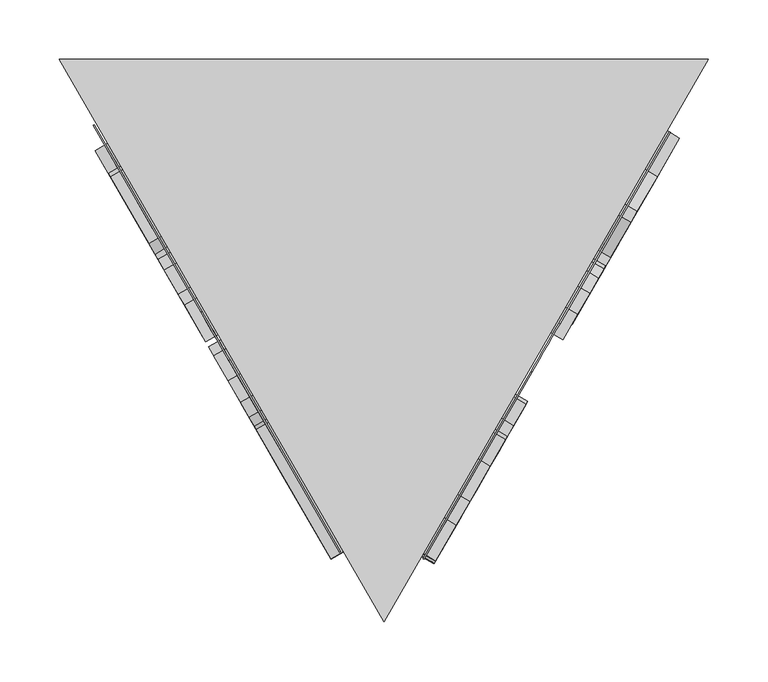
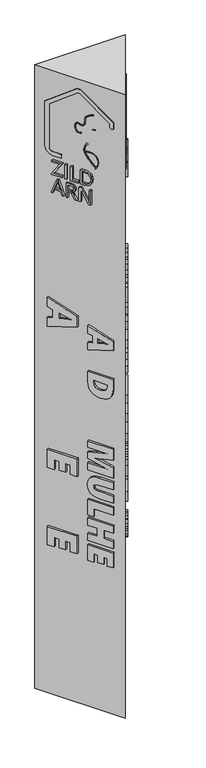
"""IFC4 building model written with IfcOpenShell, lengths in millimetres: proxy geometry, Modelos genéricos - (400)TOTEM - (400)TOTEM."""

from ifc_helpers import new_model, si_unit, point, frame, frame_2d, origin, place, context, project, spatial, polyline, circle_curve, trimmed, segment, composite_curve, outline, extrude, source, transform, mapped, element, save


def generic_models_2f17fe86(model_context):
    return source(origin(), model_context, "Body", "SweptSolid", [
        extrude(outline(polyline([(-76.4528073, 25.9651043), (-76.4528073, 72.1252898), (76.4528073, 72.1252898), (76.4528073, 25.9651043), (18.7525754, 25.9651043), (18.7525754, -25.9651044), (76.4528073, -25.9651044), (76.4528073, -72.1252899), (-76.4528073, -72.1252899), (-76.4528073, -25.9651044), (-18.7525753, -25.9651044), (-18.7525753, 25.9651043), (-76.4528073, 25.9651043)])), frame((-300.8964733, 119.7433033, 1180.3257829), z_axis=(0.8660254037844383, 0.5000000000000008, 0.0), x_axis=(0.5000000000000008, -0.8660254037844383, 0.0)), (0.0, 0.0, 1.0), 12.0),
        extrude(outline(polyline([(-36.8087686, 64.2163787), (61.2816257, 64.2163787), (61.2816257, 29.5962396), (9.3514169, 29.5962396), (9.3514169, -88.6892358), (-36.8087686, -88.6892358), (-36.8087686, 64.2163787)])), frame((-129.5977894, 128.9547206, 2405.7593289), z_axis=(-0.8660254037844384, 0.5000000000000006, 0.0), x_axis=(0.0, 0.0, 1.0)), (0.0, 0.0, 1.0), 12.0),
        extrude(outline(polyline([(-4.63153, 13.5526436), (2.0984457, 13.5526436), (4.1446937, 8.4686354), (4.8220926, 3.6724691), (4.4594532, -0.7632692), (3.3855861, -4.7659937), (1.9293024, -8.2631188), (0.4194125, -11.1820584), (-0.8555192, -13.4606666), (-1.8373573, -15.0965671), (-2.5498317, -16.1086195), (-3.3093526, -15.5905343), (-3.1826523, -14.2960408), (-2.907899, -12.4760562), (-2.539639, -10.2051367), (-2.1525433, -7.5943115), (-1.8217046, -4.7553732), (-1.6222151, -1.8001145), (-1.6273502, 1.1606202), (-1.863613, 4.0403948), (-2.3077866, 6.7787186), (-2.9342467, 9.3163574), (-3.7173691, 11.5940771), (-4.63153, 13.5526436)])), frame((-36.7823721, 307.715739, 3754.9053965), z_axis=(-0.8660254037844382, 0.5000000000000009, 0.0), x_axis=(-0.23954797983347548, -0.41490927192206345, 0.8777625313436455)), (0.0, 0.0, 1.0), 1.0),
        extrude(outline(polyline([(44.875535, -42.3616383), (-45.9594836, -42.3616383), (-45.9594836, -18.6620536), (-42.7694124, 1.1311165), (-33.1991987, 16.4856356), (-18.3668739, 26.3370308), (0.6095309, 29.6208291), (19.9759077, 26.6650759), (33.8090339, 17.7978161), (42.1089097, 3.0190496), (44.875535, -17.6712235), (44.875535, -42.3616383)]), holes=[polyline([(-35.676274, -32.0784287), (34.5923253, -32.0784287), (34.5923253, -17.8586778), (32.4516637, -1.5852977), (26.0296787, 10.0385451), (15.3263705, 17.012851), (0.341739, 19.3376195), (-14.9391373, 16.8471547), (-26.2901672, 9.3757602), (-33.3297473, -2.5744541), (-35.676274, -18.5013785), (-35.676274, -32.0784287)])]), frame((-340.6795695, 188.649647, 3426.4777613), z_axis=(0.8660254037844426, 0.4999999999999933, 0.0), x_axis=(0.0, 0.0, 1.0)), (0.0, 0.0, 1.0), 12.0),
        extrude(outline(polyline([(-30.9502888, 45.7337275), (-7.2507042, 45.7337275), (12.542466, 42.5436563), (27.8969851, 32.9734426), (37.7483803, 18.1411177), (41.0321787, -0.835287), (38.0764254, -20.2016638), (29.2091655, -34.0347901), (14.4303991, -42.3346658), (-6.259874, -45.1012911), (-30.9502888, -45.1012911), (-30.9502888, 45.7337275)]), holes=[polyline([(-20.6670792, -34.8180814), (-6.4473283, -34.8180814), (9.8260517, -32.6774198), (21.4498947, -26.2554348), (28.4242005, -15.5521266), (30.748969, -0.5674951), (28.2585042, 14.7133812), (20.7871097, 26.0644111), (8.8368954, 33.1039912), (-7.090029, 35.4505178), (-20.6670792, 35.4505178), (-20.6670792, -34.8180814)])]), frame((-50.6006345, 265.7818065, 3425.4248276), z_axis=(-0.8660254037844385, 0.5000000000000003, 0.0), x_axis=(0.5000000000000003, 0.8660254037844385, 0.0)), (0.0, 0.0, 1.0), 12.0),
        extrude(outline(polyline([(-60.2017262, 21.1635115), (-73.1143141, 77.7666363), (116.8108071, 62.0389046), (131.5697521, -2.6578405), (-31.9465063, -102.6949867), (-44.8114462, -46.3007296), (-13.2628082, -30.4790073), (-25.0437578, 21.1635115), (-60.2017262, 21.1635115)]), holes=[polyline([(87.6023023, 20.547352), (66.282956, 19.364476), (13.8372759, 20.2549373), (21.460944, -13.1638817), (78.1915107, 15.3241929), (87.6023023, 20.547352)])]), frame((-435.2164361, 352.3923032, 2488.0813655), z_axis=(0.8660254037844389, 0.4999999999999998, 0.0), x_axis=(0.4874764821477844, -0.844334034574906, 0.22241114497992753)), (0.0, 0.0, 1.0), 12.0),
        extrude(outline(polyline([(90.2637291, -74.7139451), (-91.406308, -74.7139451), (-91.406308, 41.8290976), (-50.2734695, 41.8290976), (-50.2734695, -19.8701603), (-19.4238405, -19.8701603), (-19.4238405, 34.9736245), (21.7089981, 34.9736245), (21.7089981, -19.8701603), (49.1308905, -19.8701603), (49.1308905, 37.6515437), (90.2637291, 37.6515437), (90.2637291, -74.7139451)])), frame((-416.5067074, 319.9861025, 1532.9077632), z_axis=(0.8660254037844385, 0.5000000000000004, 0.0), x_axis=(0.5000000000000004, -0.8660254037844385, 0.0)), (0.0, 0.0, 1.0), 12.0),
        extrude(outline(polyline([(39.9791565, 91.3983502), (87.6461178, 91.3983502), (87.6461178, -90.2716869), (35.4802522, -90.2716869), (35.4802522, -9.8805531), (35.7480442, 9.132673), (33.5521504, 5.1157943), (30.4725434, 0.5097733), (27.2322612, -4.0962478), (24.5007836, -8.0060097), (-36.180865, -90.2716869), (-87.1684462, -90.2716869), (-87.1684462, 91.3983502), (-35.7523979, 91.3983502), (-35.7523979, 15.2383288), (-36.0201898, -14.8614828), (-23.6482032, 3.8839514), (39.9791565, 91.3983502)])), frame((-13.2017907, 330.5585041, 1818.1886702), z_axis=(-0.8660254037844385, 0.5000000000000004, 0.0), x_axis=(0.0, 0.0, 1.0)), (0.0, 0.0, 1.0), 12.0),
        extrude(outline(polyline([(18.852551, -33.7060761), (-27.4218924, -33.7060761), (-27.4218924, -23.4228665), (8.5693414, -23.4228665), (8.5693414, 57.1289425), (18.852551, 57.1289425), (18.852551, -33.7060761)])), frame((-382.4268079, 260.9579851, 3414.2243538), z_axis=(0.8660254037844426, 0.4999999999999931, 0.0), x_axis=(-0.4999999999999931, 0.8660254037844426, 0.0)), (0.0, 0.0, 1.0), 12.0),
        extrude(outline(composite_curve([segment(polyline([(38.8327591, -51.736189), (29.1486857, -51.736189)]), True, "CONTINUOUS"), segment(trimmed(circle_curve(frame_2d((31.1091994, -49.4559354)), 3.0071864), [point((29.1486857, -51.736189))], [point((30.7203024, -46.4740015))], False, "CARTESIAN"), True, "CONTINUOUS"), segment(polyline([(30.7203024, -46.4740015), (37.0919875, -46.5237561), (42.0909295, -44.503104), (45.4488844, -41.8372725), (48.2458241, -37.8717707), (49.7527185, -33.3636464), (49.748345, -28.2383806), (48.5416446, -22.2375904), (46.7232765, -15.9045684), (44.6210515, -10.0057441), (42.0281474, -4.6078953), (38.7973108, 0.2062461), (35.1204343, 3.9574287), (31.2733451, 6.2658393), (27.2867947, 7.2687926), (23.5184579, 7.0347859), (19.9230449, 5.3807463), (15.7845913, 1.3859684), (12.2632867, -3.6808764), (9.4806368, -8.5689507), (2.823159, -12.8157393), (-4.505966, -13.0706988), (-11.3485306, -10.9439389), (-17.7839801, -7.2392151), (-23.9281626, -2.1429036), (-29.4945056, 4.1538269), (-34.2529579, 10.9270829), (-38.2286068, 17.4345471), (-41.4571038, 22.8184327), (-44.068977, 26.3489093), (-46.3704066, 28.3270741), (-49.1488574, 29.6773389), (-54.4658314, 31.3799619), (-63.1973948, 33.7042269), (-76.8785678, 35.3495899), (-97.9705555, 34.4544595), (-103.3195109, 33.8572098), (-101.6121688, 39.5738418), (-98.5799751, 39.9124082), (-76.1242172, 40.81311), (-61.3958462, 38.9341771), (-52.2695323, 36.4536261), (-46.7050174, 34.6208092), (-42.8602075, 32.5798425), (-39.451983, 29.4136982), (-36.1670602, 24.7185023), (-32.6447899, 18.7776028), (-28.5097122, 12.1913825), (-23.7186422, 5.7275767), (-18.3620214, 0.1877215), (-12.6732306, -4.0233046), (-6.9845306, -6.7876691), (-1.4815442, -7.8255989), (3.3876961, -6.7640519), (6.1537385, -3.5065991), (9.275641, 1.8740586), (14.2743042, 7.826164), (19.8133001, 11.5728069), (25.4969754, 12.8087585), (31.2717796, 12.076493), (36.7997754, 9.5231574), (41.7015326, 5.2600569), (45.8029829, -0.2113012), (49.011316, -6.300722), (51.4729348, -12.7416237), (53.4896836, -19.4788881), (55.0392658, -26.4001688), (55.3025508, -33.2446797), (53.4675899, -39.6995306), (49.8239175, -45.1910177), (45.1097947, -49.1006775), (38.8327591, -51.736189)]), True, "CONTINUOUS")], self_intersect=False)), frame((-353.4375862, 228.7471803, 3761.0048527), z_axis=(0.8660254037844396, 0.4999999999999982, 0.0), x_axis=(-0.43994417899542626, 0.7620056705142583, -0.47518046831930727)), (0.0, 0.0, 1.0), 1.0),
        extrude(outline(polyline([(12.5579119, -64.4016365), (-19.8025084, -64.4016365), (-102.2917648, -53.7863582), (-96.4001415, -8.0037032), (-8.9034072, -19.2633778), (4.2095935, -19.6555219), (14.0402437, -17.0346195), (20.4973563, -11.4911981), (23.4897437, -3.1157858), (22.5866402, 5.7154746), (17.3802944, 12.8052792), (8.1509203, 17.9471302), (-4.8212678, 20.9345304), (-91.2449712, 32.05612), (-85.3533479, 77.838775), (-2.0146086, 67.1141796), (28.6514868, 58.980774), (49.2932133, 43.7632048), (59.9912398, 21.7351533), (60.8262358, -6.8296988), (52.5734905, -35.9067295), (36.5836471, -55.0003548), (12.5579119, -64.4016365)])), frame((-309.9651528, 135.4507169, 1465.9890582), z_axis=(0.8660254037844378, 0.5000000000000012, 0.0), x_axis=(-0.49591064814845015, 0.8589424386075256, 0.12763430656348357)), (0.0, 0.0, 1.0), 12.0),
        extrude(outline(polyline([(-54.380731, -4.1798604), (-56.6193783, -2.6620159), (-20.0708867, 51.242837), (-11.5595941, 45.4720225), (-39.0160473, 4.9768883), (54.3981884, 4.8927581), (57.0358025, 3.1044067), (19.5255085, -52.2189949), (11.0142159, -46.4481805), (39.6729221, -4.1798604), (-54.380731, -4.1798604)])), frame((-433.6928927, 349.7534486, 3425.9839895), z_axis=(0.8660254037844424, 0.49999999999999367, 0.0), x_axis=(-0.2805940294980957, 0.4860031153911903, -0.8276883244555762)), (0.0, 0.0, 1.0), 12.0),
        extrude(outline(polyline([(75.971972, -62.8842371), (-76.9336426, -62.8842371), (-76.9336426, 35.2061572), (-42.3135034, 35.2061572), (-42.3135034, -16.7240516), (-16.348399, -16.7240516), (-16.348399, 29.436134), (18.2717401, 29.436134), (18.2717401, -16.7240516), (41.3518328, -16.7240516), (41.3518328, 31.6900493), (75.971972, 31.6900493), (75.971972, -62.8842371)])), frame((-300.6560557, 119.3268877, 1016.46614), z_axis=(0.8660254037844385, 0.5000000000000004, 0.0), x_axis=(0.5000000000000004, -0.8660254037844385, 0.0)), (0.0, 0.0, 1.0), 12.0),
        extrude(outline(polyline([(90.2637291, -74.7139451), (-91.406308, -74.7139451), (-91.406308, 41.8290975), (-50.2734695, 41.8290975), (-50.2734695, -19.8701603), (-19.4238405, -19.8701603), (-19.4238405, 34.9736244), (21.7089981, 34.9736244), (21.7089981, -19.8701603), (49.1308905, -19.8701603), (49.1308905, 37.6515436), (90.2637291, 37.6515436), (90.2637291, -74.7139451)])), frame((-416.5067074, 319.9861025, 1035.8859635), z_axis=(0.8660254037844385, 0.5000000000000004, 0.0), x_axis=(0.5000000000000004, -0.8660254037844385, 0.0)), (0.0, 0.0, 1.0), 12.0),
        extrude(outline(polyline([(-11.2325872, -1.823796), (-12.1134304, -1.823796), (-9.7317169, 2.0747206), (-5.1512732, 2.0119895), (-1.3167217, 1.9177929), (1.8181601, 1.7952394), (4.2995944, 1.6474373), (6.1738034, 1.4774952), (7.4870095, 1.2885213), (8.2854348, 1.0836243), (8.6153015, 0.8659125), (8.522832, 0.6384945), (8.0542486, 0.4044784), (7.2557734, 0.166973), (6.1736286, -0.0709134), (4.8540367, -0.3060725), (3.3432196, -0.5353955), (1.6873999, -0.7557743), (-0.0672004, -0.9641004), (-1.8743589, -1.1572652), (-3.6878534, -1.3321604), (-5.4614617, -1.4856775), (-7.1489615, -1.614708), (-8.7041304, -1.7161435), (-10.0807464, -1.7868758), (-11.2325872, -1.823796)])), frame((-316.0235706, 163.9442044, 3747.826212), z_axis=(0.8660254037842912, 0.5000000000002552, 0.0), x_axis=(-0.48624597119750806, 0.8422027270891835, -0.23293651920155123)), (0.0, 0.0, 1.0), 1.0),
        extrude(outline(polyline([(-23.2845072, -45.6738244), (-35.951065, -45.6738244), (-35.951065, 45.1611942), (-25.6678553, 45.1611942), (-25.6678553, -18.814295), (-26.0427641, -32.1771117), (-22.400794, -26.0982352), (22.5882483, 45.1611942), (36.0314025, 45.1611942), (36.0314025, -45.6738244), (25.7481929, -45.6738244), (25.7481929, 19.9619747), (25.8553097, 32.441078), (22.9631569, 26.7371102), (-23.2845072, -45.6738244)])), frame((-348.129358, 201.5530594, 3311.1921021), z_axis=(0.866025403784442, 0.4999999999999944, 0.0), x_axis=(-0.4999999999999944, 0.866025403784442, 0.0)), (0.0, 0.0, 1.0), 12.0),
        extrude(outline(polyline([(-408.9917662, 306.9698425), (-398.5994613, 312.9698425), (-393.4578565, 304.0643217), (-403.8501613, 298.0643217), (-408.9917662, 306.9698425)])), frame((0.0, 0.0, 3380.5182777), z_axis=(0.0, 0.0, 1.0), x_axis=(1.0, 0.0, 0.0)), (0.0, 0.0, 1.0), 90.8350186),
        extrude(outline(polyline([(34.0018753, 78.4235284), (92.0591631, 78.4235284), (34.4839007, -103.2465087), (-31.8749365, -103.2465087), (-93.0386106, 78.4235284), (-35.1955563, 78.4235284), (-26.7868901, 44.146163), (26.1823513, 44.146163), (34.0018753, 78.4235284)]), holes=[polyline([(0.5278855, -65.5414066), (4.1162972, -44.4929618), (16.648959, 6.4410609), (-17.6284065, 6.4410609), (-2.4713839, -55.2046386), (0.5278855, -65.5414066)])]), frame((-6.7143798, 341.7950293, 1251.6268309), z_axis=(-0.8660254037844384, 0.5000000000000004, 0.0), x_axis=(0.0, 0.0, 1.0)), (0.0, 0.0, 1.0), 12.0),
        extrude(outline(polyline([(-12.3491137, 66.3481512), (70.8203612, 66.3481512), (70.8203612, 20.1879657), (-17.397884, 20.1879657), (-30.4536884, 18.903234), (-39.8694197, 15.0490388), (-45.5661906, 8.7268064), (-47.4651142, 0.0379629), (-45.4422253, -8.6058024), (-39.3735583, -14.9731131), (-29.5633919, -18.8949257), (-16.3160046, -20.2021966), (70.8203612, -20.2021966), (70.8203612, -66.3623821), (-13.2056015, -66.3623821), (-44.6589897, -62.2095432), (-67.0741774, -49.7510263), (-80.496243, -29.2685709), (-84.970265, -1.0439165), (-80.496243, 28.8486353), (-67.0741774, 49.826952), (-44.4448677, 62.2178514), (-12.3491137, 66.3481512)])), frame((-138.5322267, 113.4798212, 2273.7522931), z_axis=(-0.8660254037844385, 0.5000000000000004, 0.0), x_axis=(-0.5000000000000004, -0.8660254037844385, 0.0)), (0.0, 0.0, 1.0), 12.0),
        extrude(outline(polyline([(-492.9062385, 476.3139721), (57.0937615, 476.3139721), (-217.9062385, 0.0), (-492.9062385, 476.3139721)])), frame((0.0, 0.0, 37.8534751), z_axis=(0.0, 0.0, 1.0), x_axis=(1.0, 0.0, 0.0)), (0.0, 0.0, 1.0), 4000.0),
        extrude(outline(polyline([(-51.6514887, 22.8310198), (45.3791723, 22.8310199), (49.1548919, 12.7782403), (-23.9314919, -50.9729277), (-27.9896844, -40.1680698), (-8.4464989, -23.9600736), (-22.042856, 12.2399604), (-47.6121277, 12.0763006), (-51.6514887, 22.8310198)]), holes=[polyline([(-11.1262951, 12.4211214), (-0.1004404, -16.9350004), (32.4818133, 10.4063853), (37.6639696, 14.1263051), (31.4178325, 13.2392134), (-11.1262951, 12.4211214)])]), frame((-6.1480268, 342.7759815, 3420.0169627), z_axis=(-0.8660254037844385, 0.5000000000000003, 0.0), x_axis=(-0.17580365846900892, -0.3045008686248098, 0.9361475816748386)), (0.0, 0.0, 1.0), 12.0),
        extrude(outline(polyline([(-28.0009924, -28.7072936), (-39.4892657, -28.7072936), (-5.3725754, 62.127725), (5.3658806, 62.127725), (39.348675, -28.7072936), (27.8068433, -28.7072936), (19.5052938, -4.7131378), (-19.1638591, -4.7131378), (-28.0009924, -28.7072936)]), holes=[polyline([(-1.3021382, 45.6853012), (-15.4951099, 5.5700719), (15.8633237, 5.5700719), (1.7239104, 45.6853012), (0.0636006, 51.8445153), (-1.3021382, 45.6853012)])]), frame((-431.3072014, 345.6213102, 3294.2255713), z_axis=(0.8660254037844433, 0.49999999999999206, 0.0), x_axis=(-0.49999999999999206, 0.8660254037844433, 0.0)), (0.0, 0.0, 1.0), 12.0),
        extrude(outline(polyline([(39.9791564, 91.3983502), (87.6461178, 91.3983502), (87.6461178, -90.2716869), (35.4802522, -90.2716869), (35.4802522, -9.8805531), (35.7480441, 9.132673), (33.5521504, 5.1157943), (30.4725433, 0.5097733), (27.2322611, -4.0962478), (24.5007836, -8.0060097), (-36.180865, -90.2716869), (-87.1684462, -90.2716869), (-87.1684462, 91.3983502), (-35.752398, 91.3983502), (-35.752398, 15.2383288), (-36.0201899, -14.8614828), (-23.6482033, 3.8839514), (39.9791564, 91.3983502)])), frame((-13.2017907, 330.5585041, 2359.771045), z_axis=(-0.8660254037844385, 0.5000000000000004, 0.0), x_axis=(0.0, 0.0, 1.0)), (0.0, 0.0, 1.0), 12.0),
        extrude(outline(polyline([(25.9651044, 76.4528073), (72.1252899, 76.4528073), (72.1252899, -76.4528073), (25.9651044, -76.4528073), (25.9651044, -18.7525753), (-25.9651043, -18.7525753), (-25.9651043, -76.4528073), (-72.1252899, -76.4528073), (-72.1252899, 76.4528073), (-25.9651043, 76.4528073), (-25.9651043, 18.7525754), (25.9651044, 18.7525754), (25.9651044, 76.4528073)])), frame((-135.7160037, 118.3576626, 2559.3613256), z_axis=(-0.8660254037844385, 0.5000000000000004, 0.0), x_axis=(0.0, 0.0, 1.0)), (0.0, 0.0, 1.0), 12.0),
        extrude(outline(polyline([(90.39703, -48.0835265), (-62.5085846, -48.0835265), (-62.5085846, 50.0068677), (-27.8884454, 50.0068677), (-27.8884454, -1.923341), (90.39703, -1.923341), (90.39703, -48.0835265)])), frame((-307.8685847, 131.8193544, 1322.6530217), z_axis=(0.8660254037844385, 0.5000000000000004, 0.0), x_axis=(0.5000000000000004, -0.8660254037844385, 0.0)), (0.0, 0.0, 1.0), 12.0),
        extrude(outline(polyline([(23.2341063, 86.4951596), (85.8974151, 86.4951596), (67.7946815, 40.2742746), (53.9230601, 16.5479106), (34.4813669, 4.5508328), (52.4100358, -2.913867), (65.2774375, -13.846472), (73.0300135, -28.0327489), (75.6142055, -45.2584639), (71.0617429, -67.0968949), (57.4043551, -82.6957742), (34.2001854, -92.0551017), (1.0073772, -95.1748775), (-71.7784661, -95.1748775), (-71.7784661, 86.4951596), (-16.9346813, 86.4951596), (-16.9346813, 21.3681652), (-14.7387876, 21.3681652), (-7.5619642, 23.0485594), (-0.9207246, 28.0897423), (9.4696018, 46.5406055), (23.2341063, 86.4951596)]), holes=[polyline([(17.3426842, -37.9209654), (15.6689847, -29.3984876), (10.6478862, -22.4693718), (2.868531, -17.8700456), (-7.0799388, -16.3369368), (-16.9346813, -16.3369368), (-16.9346813, -57.4697754), (-5.6874208, -57.4697754), (4.6225681, -56.1509003), (11.7726123, -52.1942747), (15.9501662, -45.9881969), (17.3426842, -37.9209654)])]), frame((-10.7501954, 334.8047917, 1436.0308794), z_axis=(-0.8660254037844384, 0.5000000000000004, 0.0), x_axis=(0.0, 0.0, 1.0)), (0.0, 0.0, 1.0), 12.0),
        extrude(outline(polyline([(-10.7568186, 80.0782553), (22.2327466, 80.0782553), (35.8567016, 75.7970587), (47.5667714, 68.6617312), (57.3629561, 58.6722727), (65.2452558, 45.8286831), (75.2681997, 11.579111), (84.9788064, -51.052678), (-66.1214985, -74.4796893), (-76.0462081, -10.4669717), (-77.0607127, 11.9275871), (-72.8523512, 32.337879), (-63.7012601, 49.9963027), (-49.8875763, 64.135257), (-32.0323968, 74.3106162), (-10.7568186, 80.0782553)]), holes=[polyline([(-3.6434089, 31.5499608), (-20.8729771, 26.3868181), (-33.3611306, 16.975152), (-40.3189927, 4.2583765), (-40.9576867, -10.8200949), (-38.9824139, -23.560274), (43.6951113, -10.7417207), (41.8855957, 0.9293524), (33.8456403, 19.685822), (17.6755344, 30.2708116), (-3.6434089, 31.5499608)])]), frame((-135.865611, 118.0985351, 1610.1919633), z_axis=(-0.866025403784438, 0.5000000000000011, 0.0), x_axis=(-0.49409665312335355, -0.8558005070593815, -0.1532122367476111)), (0.0, 0.0, 1.0), 12.0),
        extrude(outline(polyline([(16.6411767, -45.7654861), (-5.4023231, -45.765486), (-37.2426425, -37.1338302), (-49.2718177, -29.4370949), (-58.7070034, -19.4864212), (-65.5481994, -7.2818092), (-69.7954058, 7.1767411), (-70.5078497, 42.8556567), (-63.4926852, 105.8463255), (88.4734232, 88.9221164), (81.3035858, 24.5426064), (76.4232556, 2.6627559), (67.021186, -15.9354003), (53.5685958, -30.5842984), (36.5367045, -40.6163752), (16.6411767, -45.7654861)]), holes=[polyline([(-19.8121672, 9.7461032), (0.4294087, 2.933455), (18.4096827, 3.4086481), (32.9253349, 9.2249421), (42.9681281, 19.6781967), (47.529825, 34.0642716), (48.9568072, 46.8774517), (-34.1944596, 56.137868), (-35.5016951, 44.3999198), (-32.6494187, 24.193224), (-19.8121672, 9.7461032)])]), frame((-300.0791003, 118.3275717, 2094.7965108), z_axis=(0.8660254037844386, 0.5000000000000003, 0.0), x_axis=(-0.4969278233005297, 0.8607042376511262, 0.11068402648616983)), (0.0, 0.0, 1.0), 12.0),
        extrude(outline(polyline([(-37.9671014, 50.7529622), (-23.1545463, 50.7529623), (-9.6883502, 45.7402389), (3.1870733, 34.8552881), (16.2273113, 17.2386057), (26.7124121, 3.5237091), (35.1685534, 1.2163079), (42.2501055, 6.8376162), (43.2326898, 18.8238589), (37.5452757, 35.9067434), (26.1151449, 52.3569927), (65.7194665, 58.7669407), (71.7932266, 44.6577242), (75.3044223, 33.2618038), (78.2219518, 19.326726), (78.8806306, -5.5510809), (72.0844008, -25.98443), (58.7071069, -40.5304399), (39.6225928, -47.7462292), (24.6715562, -47.8428479), (11.14591, -43.0623629), (-0.954346, -33.4047743), (-11.6292115, -18.8700822), (-20.7221034, -4.5873701), (-26.9518681, 0.7517667), (-33.7800576, 1.7472121), (-40.9823749, -3.5511553), (-41.8344196, -15.3564429), (-34.5190535, -35.7262905), (-20.8678191, -54.6140306), (-61.451124, -61.1824268), (-70.5642078, -42.1195835), (-76.0746539, -20.4872308), (-77.6682025, -1.9654519), (-76.067709, 14.1735599), (-71.1923415, 27.7830602), (-62.9612687, 38.7163043), (-51.7582641, 46.5230267), (-37.9671014, 50.7529622)])), frame((-135.2324288, 119.1952389, 1187.6290126), z_axis=(-0.8660254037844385, 0.5000000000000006, 0.0), x_axis=(-0.49357708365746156, -0.8549005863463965, -0.15977061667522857)), (0.0, 0.0, 1.0), 12.0),
        extrude(outline(polyline([(-50.6697863, 17.8126222), (-61.5378811, 65.4535856), (98.3157626, 52.2160781), (110.7378747, -2.2370157), (-26.8883095, -86.4349471), (-37.7163006, -38.9697806), (-11.1628636, -25.6531645), (-21.0784962, 17.8126222), (-50.6697863, 17.8126222)]), holes=[polyline([(73.7319378, 17.2940214), (55.7881547, 16.298434), (11.6463738, 17.0479056), (18.0629612, -11.0796004), (65.8111881, 12.8978624), (73.7319378, 17.2940214)])]), frame((-316.4034107, 146.6021066, 2408.9462875), z_axis=(0.8660254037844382, 0.5000000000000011, 0.0), x_axis=(0.4874764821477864, -0.8443340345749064, 0.22241114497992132)), (0.0, 0.0, 1.0), 12.0),
        extrude(outline(composite_curve([segment(polyline([(-145.5361133, -90.9011543), (27.4729072, -221.2728024)]), True, "CONTINUOUS"), segment(trimmed(circle_curve(frame_2d((36.6537063, -209.0894706)), 15.2551842), [point((27.4729072, -221.2728024))], [point((45.6204785, -221.4311739))], True, "CARTESIAN"), True, "CONTINUOUS"), segment(polyline([(45.6204785, -221.4311739), (223.065465, -92.5098449), (223.065465, -74.2036238)]), True, "CONTINUOUS"), segment(trimmed(circle_curve(frame_2d((235.2696123, -74.2036238)), 12.2041473), [point((223.065465, -74.2036238))], [point((247.4737596, -74.2036238))], False, "CARTESIAN"), True, "CONTINUOUS"), segment(polyline([(247.4737596, -74.2036238), (247.4737596, -104.9464922), (59.9673142, -241.1778991)]), True, "CONTINUOUS"), segment(trimmed(circle_curve(frame_2d((36.6537063, -209.0894706)), 39.6634788), [point((59.9673142, -241.1778991))], [point((12.7836288, -240.7661333))], False, "CARTESIAN"), True, "CONTINUOUS"), segment(polyline([(12.7836288, -240.7661333), (-169.9444079, -103.0706811), (-169.9444079, 183.4960366)]), True, "CONTINUOUS"), segment(trimmed(circle_curve(frame_2d((-121.1278186, 183.4960366)), 48.8165894), [point((-169.9444079, 183.4960366))], [point((-121.1278186, 232.312626))], False, "CARTESIAN"), True, "CONTINUOUS"), segment(polyline([(-121.1278186, 232.312626), (-72.3112292, 232.312626), (-72.3112292, 217.0574418), (-69.0836403, 207.9043313), (-121.1278186, 207.9043313)]), True, "CONTINUOUS"), segment(trimmed(circle_curve(frame_2d((-121.1278186, 183.4960366)), 24.4082947), [point((-121.1278186, 207.9043313))], [point((-145.5361133, 183.4960366))], True, "CARTESIAN"), True, "CONTINUOUS"), segment(polyline([(-145.5361133, 183.4960366), (-145.5361133, -90.9011543)]), True, "CONTINUOUS")], self_intersect=False)), frame((-98.875888, 200.1666147, 3728.6060913), z_axis=(-0.8660254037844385, 0.5000000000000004, 0.0), x_axis=(0.5000000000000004, 0.8660254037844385, 0.0)), (0.0, 0.0, 1.0), 1.0),
        extrude(outline(polyline([(34.0018752, 78.4235284), (92.059163, 78.4235284), (34.4839007, -103.2465087), (-31.8749366, -103.2465087), (-93.0386106, 78.4235284), (-35.1955563, 78.4235284), (-26.7868901, 44.146163), (26.1823512, 44.146163), (34.0018752, 78.4235284)]), holes=[polyline([(0.5278855, -65.5414066), (4.1162972, -44.4929618), (16.648959, 6.4410609), (-17.6284065, 6.4410609), (-2.471384, -55.2046386), (0.5278855, -65.5414066)])]), frame((-6.7143798, 341.7950293, 1618.3946417), z_axis=(-0.8660254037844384, 0.5000000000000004, 0.0), x_axis=(0.0, 0.0, 1.0)), (0.0, 0.0, 1.0), 12.0),
        extrude(outline(polyline([(-113.2071565, 157.3441296), (-123.5994613, 163.3441296), (-118.4578565, 172.2496503), (-108.0655517, 166.2496503), (-113.2071565, 157.3441296)])), frame((0.0, 0.0, 3379.6911001), z_axis=(0.0, 0.0, 1.0), x_axis=(1.0, 0.0, 0.0)), (0.0, 0.0, 1.0), 90.8350186),
        extrude(outline(polyline([(11.2685033, 45.1072851), (-73.568869, 45.1072851), (-73.568869, 91.2674706), (79.3367456, 91.2674706), (79.3367456, 23.6500114), (-4.2384341, 4.0860265), (-27.4086835, -0.2414909), (-15.1699233, -1.7966925), (-4.6441388, -3.7575988), (79.3367456, -24.6739328), (79.3367456, -93.3732715), (-73.568869, -93.3732715), (-73.568869, -52.9831091), (-0.6321696, -52.9831091), (44.7166064, -53.2085007), (18.3908756, -48.2949653), (-73.568869, -25.0796376), (-73.568869, 17.56444), (19.472755, 39.7429667), (44.7166064, 46.1440862), (37.594234, 45.828538), (11.2685033, 45.1072851)])), frame((-302.3384425, 122.2408671, 1652.4147842), z_axis=(0.8660254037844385, 0.5000000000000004, 0.0), x_axis=(0.5000000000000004, -0.8660254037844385, 0.0)), (0.0, 0.0, 1.0), 12.0),
        extrude(outline(polyline([(-60.0947281, 90.3489828), (56.4483146, 90.3489828), (56.4483146, 49.2161442), (-5.2509433, 49.2161442), (-5.2509433, 18.3665153), (49.5928415, 18.3665153), (49.5928415, -22.7663233), (-5.2509433, -22.7663233), (-5.2509433, -50.1882157), (52.2707607, -50.1882157), (52.2707607, -91.3210543), (-60.0947281, -91.3210543), (-60.0947281, 90.3489828)])), frame((-12.677107, 331.4672829, 2689.181928), z_axis=(-0.8660254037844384, 0.5000000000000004, 0.0), x_axis=(0.0, 0.0, 1.0)), (0.0, 0.0, 1.0), 12.0),
        extrude(outline(polyline([(-37.8728754, 65.3672036), (-34.7460739, 75.6745957), (-12.4211089, 67.6743717), (1.1715541, 59.1879135), (9.4151878, 51.5517389), (14.8166182, 45.2359269), (18.3476689, 39.1930826), (20.8159281, 32.2408811), (22.6894798, 23.8775953), (24.0048374, 14.466662), (24.7712188, 4.4263354), (25.0362353, -5.8959273), (24.907866, -16.2639869), (24.4993845, -26.4514666), (23.9245479, -36.2355065), (23.2996885, -45.4119581), (22.7423842, -53.782847), (22.7086429, -61.1277929), (24.5834369, -67.158493), (26.4935839, -70.9973548), (22.6301206, -71.5173963), (15.5997898, -70.250596), (7.3275346, -67.5416887), (-1.4742605, -63.0701432), (-10.01818, -57.2618222), (-17.5182084, -50.7401751), (-23.5956293, -43.8178953), (-28.2052893, -36.5531785), (-31.3272405, -29.0236141), (-32.990453, -21.3922827), (-33.217756, -13.7914383), (-31.9413771, -6.0800811), (-29.0805424, 1.9446696), (-24.7809068, 10.070814), (-19.3321443, 17.8183038), (-12.8341762, 24.8518871), (-5.1112116, 31.0506128), (3.3608677, 36.2840314), (8.8630373, 40.3006641), (8.7246097, 43.7160535), (4.5395242, 48.7006587), (-2.4804643, 54.7523759), (-12.0461874, 60.6120631), (-24.2796602, 65.3672035), (-37.8728754, 65.3672036)]), holes=[composite_curve([segment(trimmed(circle_curve(frame_2d((20.3015727, -19.2749745)), 43.5117173), [point((-13.6059595, -46.5430659))], [point((15.6668086, -62.5391457))], True, "CARTESIAN"), True, "CONTINUOUS"), segment(trimmed(circle_curve(frame_2d((-261.3252756, -16.3497064)), 280.8168069), [point((15.6668086, -62.5391457))], [point((14.9265788, 34.0783807))], True, "CARTESIAN"), True, "CONTINUOUS"), segment(trimmed(circle_curve(frame_2d((32.5987751, -24.5084104)), 61.1941061), [point((14.9265788, 34.0783807))], [point((-25.5818431, -5.541748))], True, "CARTESIAN"), True, "CONTINUOUS"), segment(trimmed(circle_curve(frame_2d((10.4160738, -17.2769333)), 37.8624431), [point((-25.5818431, -5.541748))], [point((-13.6059595, -46.5430659))], True, "CARTESIAN"), True, "CONTINUOUS")], self_intersect=False)]), frame((-325.1531121, 179.7570341, 3570.2825561), z_axis=(0.8660254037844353, 0.5000000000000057, 0.0), x_axis=(-0.3699194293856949, 0.6407192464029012, -0.6727841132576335)), (0.0, 0.0, 1.0), 1.0),
        extrude(outline(polyline([(-16.9093859, -42.8985915), (-29.4688268, -42.8985915), (-12.597936, -16.0658413), (-9.2103683, -10.9376261), (-6.1441508, -6.9876953), (-2.8770894, -3.9616466), (1.1665686, -1.4176234), (-7.2420976, 2.0101131), (-13.6423245, 7.3793411), (-17.7395408, 14.5427749), (-19.1856172, 23.3799082), (-17.0968403, 34.1585329), (-11.2857556, 41.8307713), (-2.5155703, 46.4234027), (8.4772879, 47.9364271), (35.6581676, 47.9364271), (35.6581676, -42.8985915), (25.374958, -42.8985915), (25.374958, -5.1934895), (16.4307078, -5.1934895), (10.9409736, -5.903138), (6.4019006, -8.1525902), (2.2912947, -12.1426897), (-1.8594801, -18.0475015), (-16.9093859, -42.8985915)]), holes=[polyline([(25.374958, 5.0897202), (25.374958, 37.6532174), (10.2179354, 37.6532174), (-3.9884258, 33.6095594), (-8.9024076, 22.3622989), (-7.4563312, 15.1453067), (-3.4394524, 9.6957412), (2.6662033, 6.2813942), (10.3518313, 5.0897202), (25.374958, 5.0897202)])]), frame((-386.8780117, 268.6676962, 3308.4168692), z_axis=(0.8660254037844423, 0.4999999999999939, 0.0), x_axis=(-0.4999999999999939, 0.8660254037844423, 0.0)), (0.0, 0.0, 1.0), 12.0),
        extrude(outline(composite_curve([segment(trimmed(circle_curve(frame_2d((-155.1061361, 144.927525)), 15.2551842), [point((-155.106136, 160.1827092))], [point((-169.6947413, 149.3877092))], True, "CARTESIAN"), True, "CONTINUOUS"), segment(polyline([(-169.6947413, 149.3877092), (-233.8218159, -60.3625008), (-222.8048571, -74.982499)]), True, "CONTINUOUS"), segment(trimmed(circle_curve(frame_2d((-232.5515224, -82.3271381)), 12.2041473), [point((-222.8048571, -74.982499))], [point((-242.2981879, -89.6717774))], False, "CARTESIAN"), True, "CONTINUOUS"), segment(polyline([(-242.2981879, -89.6717774), (-260.7997079, -65.119431), (-193.0365096, 156.524004)]), True, "CONTINUOUS"), segment(trimmed(circle_curve(frame_2d((-155.1061361, 144.927525)), 39.6634788), [point((-193.0365096, 156.524004))], [point((-155.1061361, 184.5910039))], False, "CARTESIAN"), True, "CONTINUOUS"), segment(polyline([(-155.1061361, 184.5910039), (73.6941545, 184.5910039), (246.1543104, -44.2713529)]), True, "CONTINUOUS"), segment(trimmed(circle_curve(frame_2d((207.1676486, -73.6499098)), 48.8165894), [point((246.1543104, -44.2713529))], [point((236.5462055, -112.6365715))], False, "CARTESIAN"), True, "CONTINUOUS"), segment(polyline([(236.5462055, -112.6365715), (197.5595438, -142.0151284), (188.3787447, -129.8317966), (180.2925982, -124.464209), (221.8569271, -93.1432406)]), True, "CONTINUOUS"), segment(trimmed(circle_curve(frame_2d((207.1676486, -73.6499098)), 24.4082947), [point((221.8569271, -93.1432406))], [point((226.6609796, -58.9606313))], True, "CARTESIAN"), True, "CONTINUOUS"), segment(polyline([(226.6609796, -58.9606313), (61.5246278, 160.1827092), (-155.106136, 160.1827092)]), True, "CONTINUOUS")], self_intersect=False)), frame((-379.0720404, 273.1473574, 3729.4332688), z_axis=(0.8660254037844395, 0.49999999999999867, 0.0), x_axis=(-0.3993177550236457, 0.6916386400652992, -0.6018150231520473)), (0.0, 0.0, 1.0), 1.0),
        extrude(outline(polyline([(-50.5797294, 76.0437272), (47.5106648, 76.0437272), (47.5106648, 41.4235881), (-4.4195439, 41.4235881), (-4.4195439, 15.4584838), (41.7406416, 15.4584838), (41.7406416, -19.1616554), (-4.4195439, -19.1616554), (-4.4195439, -42.2417482), (43.9945569, -42.2417482), (43.9945569, -76.8618873), (-50.5797294, -76.8618873), (-50.5797294, 76.0437272)])), frame((-135.5114636, 118.7119363, 2710.9164609), z_axis=(-0.8660254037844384, 0.5000000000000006, 0.0), x_axis=(0.0, 0.0, 1.0)), (0.0, 0.0, 1.0), 12.0),
    ])


if __name__ == "__main__":
    model = new_model("IFC4")
    model_context = context("Model", 3, world=origin())
    ifc_project = project(units=[si_unit("LENGTHUNIT", "METRE", prefix="MILLI")], contexts=[model_context])
    site = spatial("IfcSite", under=ifc_project)
    building = spatial("IfcBuilding", under=site)
    placement = place(None, origin())
    generic_models_shape = generic_models_2f17fe86(model_context)
    element("IfcBuildingElementProxy", 1, Name="Modelos genéricos - (400)TOTEM - (400)TOTEM", ObjectType="Modelos genéricos - (400)TOTEM - (400)TOTEM", at=placement, inside=building, context=model_context, shape_type="MappedRepresentation", body=[
        mapped(generic_models_shape, transform((0.0, 0.0, 0.0), x_axis=(1.0, 0.0, 0.0), y_axis=(0.0, 1.0, 0.0), z_axis=(0.0, 0.0, 1.0))),
    ])
    save(model, "model.ifc")
